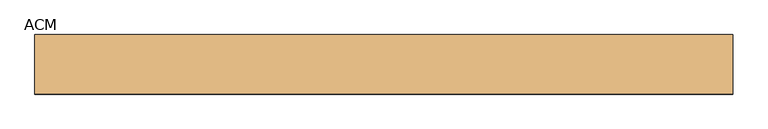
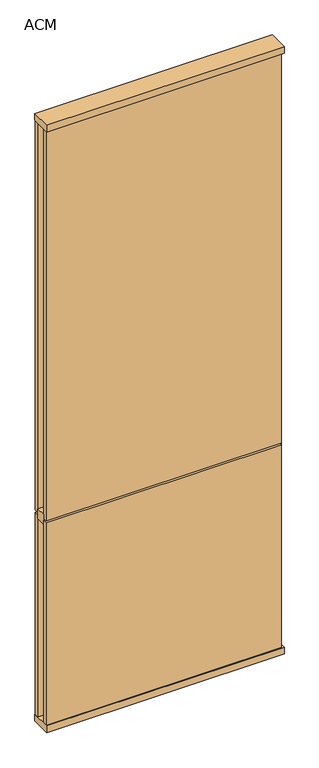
"""IFC4 building model written with IfcOpenShell, lengths in millimetres: door geometry, Mobiliário_Mobiliário de Escritório_Painel Cego - ACM (Complementar)_Marelli : ACM."""

from ifc_helpers import new_model, si_unit, frame, origin, origin_with_axes, place, context, project, spatial, polyline, outline, extrude, source, transform, mapped, element, save


def acm_bb8ff462(model_context):
    return source(origin(), model_context, "Body", "SweptSolid", [
        extrude(outline(polyline([(500.0, -42.5), (-500.0, -42.5), (-500.0, 42.5), (500.0, 42.5), (500.0, -42.5)])), origin_with_axes(), (0.0, 0.0, 1.0), 30.0),
        extrude(outline(polyline([(490.0, -39.5), (-500.0, -39.5), (-500.0, -21.5), (490.0, -21.5), (490.0, -39.5)])), frame((0.0, 0.0, 30.0), z_axis=(0.0, 0.0, 1.0), x_axis=(1.0, 0.0, 0.0)), (0.0, 0.0, 1.0), 900.0),
        extrude(outline(polyline([(490.0, -21.5), (-500.0, -21.5), (-500.0, 21.5), (490.0, 21.5), (490.0, -21.5)])), frame((0.0, 0.0, 913.5), z_axis=(0.0, 0.0, 1.0), x_axis=(1.0, 0.0, 0.0)), (0.0, 0.0, 1.0), 43.0),
        extrude(outline(polyline([(490.0, 39.5), (490.0, 21.5), (-500.0, 21.5), (-500.0, 39.5), (490.0, 39.5)])), frame((0.0, 0.0, 30.0), z_axis=(0.0, 0.0, 1.0), x_axis=(1.0, 0.0, 0.0)), (0.0, 0.0, 1.0), 900.0),
        extrude(outline(polyline([(500.0, -42.5), (-500.0, -42.5), (-500.0, 42.5), (500.0, 42.5), (500.0, -42.5)])), frame((0.0, 0.0, 2670.0), z_axis=(0.0, 0.0, 1.0), x_axis=(1.0, 0.0, 0.0)), (0.0, 0.0, 1.0), 30.0),
        extrude(outline(polyline([(500.0, 21.5), (500.0, -21.5), (490.0, -21.5), (490.0, 21.5), (500.0, 21.5)])), frame((0.0, 0.0, 30.0), z_axis=(0.0, 0.0, 1.0), x_axis=(1.0, 0.0, 0.0)), (0.0, 0.0, 1.0), 2640.0),
        extrude(outline(polyline([(490.0, -39.5), (-500.0, -39.5), (-500.0, -21.5), (490.0, -21.5), (490.0, -39.5)])), frame((0.0, 0.0, 940.0), z_axis=(0.0, 0.0, 1.0), x_axis=(1.0, 0.0, 0.0)), (0.0, 0.0, 1.0), 1730.0),
        extrude(outline(polyline([(490.0, 39.5), (490.0, 21.5), (-500.0, 21.5), (-500.0, 39.5), (490.0, 39.5)])), frame((0.0, 0.0, 940.0), z_axis=(0.0, 0.0, 1.0), x_axis=(1.0, 0.0, 0.0)), (0.0, 0.0, 1.0), 1730.0),
    ])


if __name__ == "__main__":
    model = new_model("IFC4")
    model_context = context("Model", 3, world=origin())
    ifc_project = project(units=[si_unit("LENGTHUNIT", "METRE", prefix="MILLI")], contexts=[model_context])
    site = spatial("IfcSite", under=ifc_project)
    building = spatial("IfcBuilding", under=site)
    placement = place(None, origin())
    acm_shape = acm_bb8ff462(model_context)
    element("IfcDoor", 1, ObjectType="Mobiliário_Mobiliário de Escritório_Painel Cego - ACM (Complementar)_Marelli : ACM", at=placement, inside=building, context=model_context, shape_type="MappedRepresentation", body=[
        mapped(acm_shape, transform((0.0, 0.0, 0.0), x_axis=(1.0, 0.0, 0.0), y_axis=(0.0, 1.0, 0.0), z_axis=(0.0, 0.0, 1.0))),
    ])
    save(model, "model.ifc")
